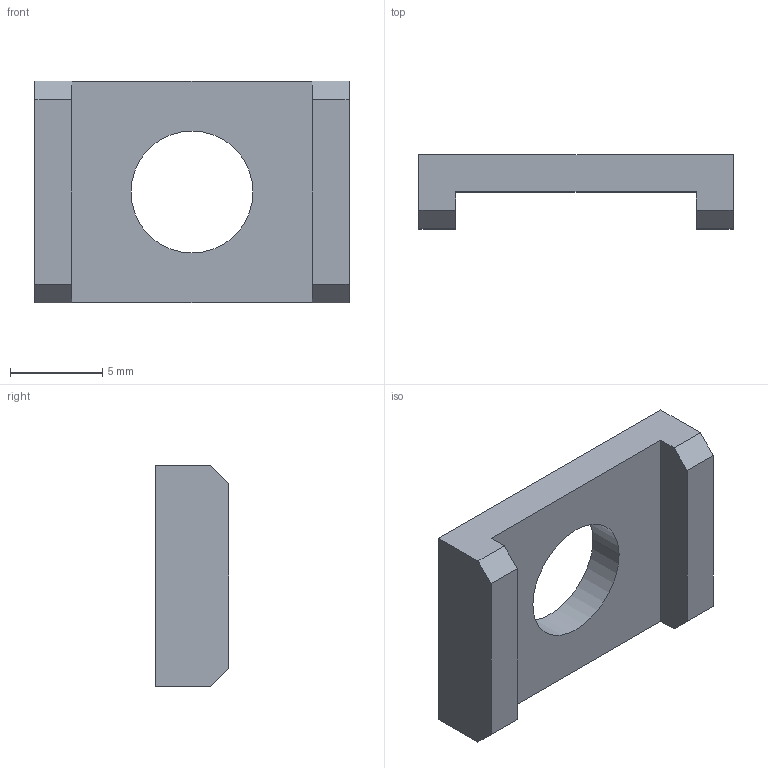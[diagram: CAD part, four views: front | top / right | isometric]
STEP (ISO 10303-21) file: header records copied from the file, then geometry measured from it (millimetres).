
FILE_DESCRIPTION (( 'STEP AP214' ), '1' );
FILE_NAME ('GZ21.17_V1Ñ¹¿éµæÆ¬.STEP', '2021-02-27T13:43:15', ( 'hp' ), ( '' ), 'SwSTEP 2.0', 'SolidWorks 2017', '' );
FILE_SCHEMA (( 'AUTOMOTIVE_DESIGN' ));
Length unit declared in the file: millimetre
Products named in the file (1): GZ21.17_V1揤輸菜え
Bounding box: 17 x 4 x 12 mm (x, y, z)
Volume: 431.6 mm3; surface area: 600.4 mm2
Topology: 1 solids, 1 shells, 16 faces, 42 edges, 28 vertices
Faces by surface type: plane 14, cylinder 2
Entity records: 528 total; most frequent: CARTESIAN_POINT 87, ORIENTED_EDGE 84, DIRECTION 80, EDGE_CURVE 42, VECTOR 38, LINE 38, VERTEX_POINT 28, AXIS2_PLACEMENT_3D 21
